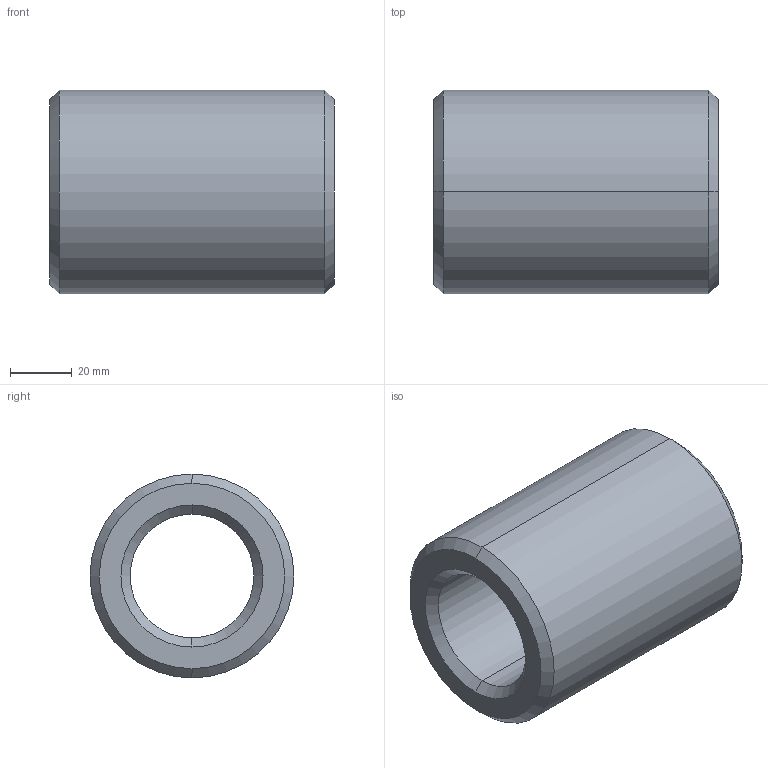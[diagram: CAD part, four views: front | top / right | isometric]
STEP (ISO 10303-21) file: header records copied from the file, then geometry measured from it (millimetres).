
FILE_DESCRIPTION (( 'STEP AP203' ), '1' );
FILE_NAME ('Muffe M42.STEP', '2018-02-22T09:22:39', ( 'install' ), ( 'Hewlett-Packard Company' ), 'SwSTEP 2.0', 'SolidWorks 2017', '' );
FILE_SCHEMA (( 'CONFIG_CONTROL_DESIGN' ));
Length unit declared in the file: millimetre
Products named in the file (1): Muffe M42
Bounding box: 92 x 66 x 66 mm (x, y, z)
Volume: 196142.2 mm3; surface area: 33795.5 mm2
Topology: 1 solids, 1 shells, 14 faces, 28 edges, 16 vertices
Faces by surface type: cone 8, cylinder 4, plane 2
Entity records: 445 total; most frequent: DIRECTION 74, CARTESIAN_POINT 59, ORIENTED_EDGE 56, AXIS2_PLACEMENT_3D 31, EDGE_CURVE 28, EDGE_LOOP 16, VERTEX_POINT 16, CIRCLE 16
